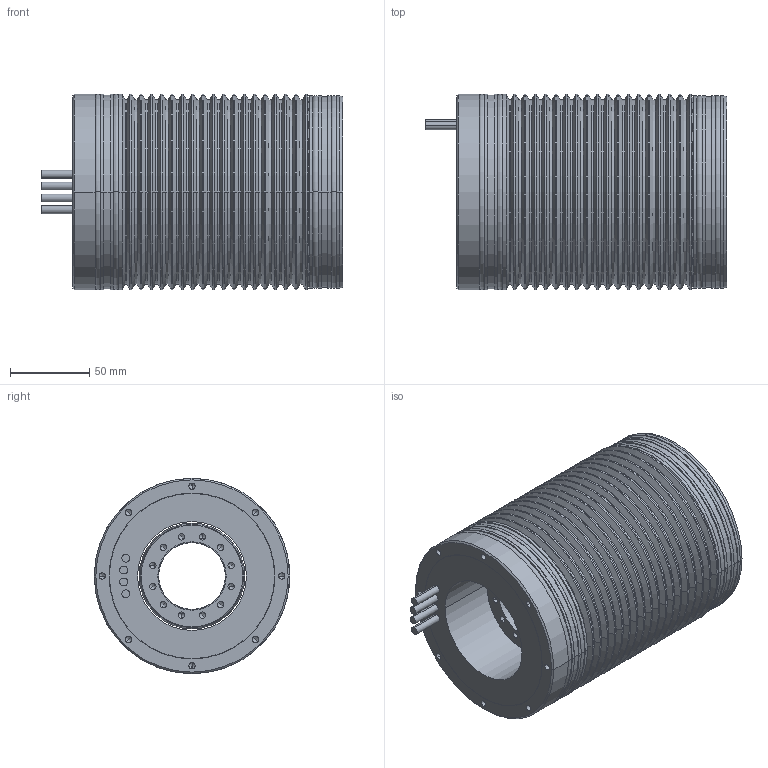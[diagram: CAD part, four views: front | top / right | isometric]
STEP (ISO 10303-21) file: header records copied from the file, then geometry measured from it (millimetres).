
FILE_DESCRIPTION((''),'2;1');
FILE_NAME('TK110-100','2017-10-26T',('stefanos'),(''),'CREO PARAMETRIC BY PTC INC, 2015480','CREO PARAMETRIC BY PTC INC, 2015480','');
FILE_SCHEMA(('CONFIG_CONTROL_DESIGN'));
Length unit declared in the file: millimetre
Products named in the file (1): TK110-100
Bounding box: 190 x 123 x 123 mm (x, y, z)
Volume: 1501059.1 mm3; surface area: 402329.1 mm2
Topology: 9 solids, 9 shells, 437 faces, 938 edges, 506 vertices
Faces by surface type: cylinder 208, cone 160, plane 37, torus 16, revolution 16
Entity records: 12732 total; most frequent: CARTESIAN_POINT 3313, DIRECTION 2174, ORIENTED_EDGE 1748, AXIS2_PLACEMENT_3D 895, EDGE_CURVE 874, VERTEX_POINT 506, EDGE_LOOP 506, CIRCLE 474
